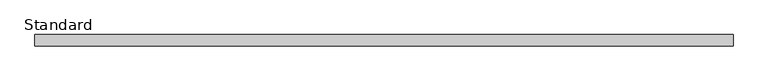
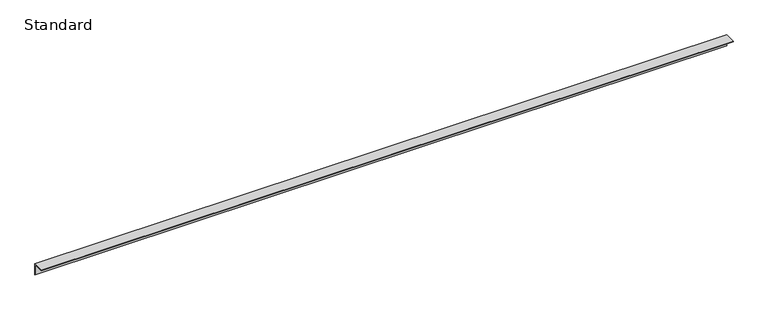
"""IFC4 building model written with IfcOpenShell, lengths in millimetres: furniture geometry, X_Vanity-Angle-Duracube-Bench Support : Standard."""

import ifcopenshell
import ifcopenshell.guid

model = None  # the IFC model being written
_history = None  # IfcOwnerHistory: only IFC2X3 demands one
_inside = {}  # id of a spatial element -> (the spatial element, [elements in it])
_under = {}  # id of a project, library or spatial element -> (it, [spatial elements below it])
_declared = {}  # id of a project -> (the project, [libraries it declares])
_typed = {}  # id of a type object -> (the type object, [elements of that type])
_made_of = {}  # id of a material, layer set ... -> (it, [elements and type objects made of it])


def new_model(schema):
    """Start an empty IFC model of exactly this schema.

    Asked for "IFC4X3", IfcOpenShell would pick the latest addendum, in which some entities
    have other attributes; the version numbers below select the first issue.
    IFC2X3 requires an IfcOwnerHistory on every rooted entity: one is made here for all.
    """
    global model, _history
    if schema == "IFC4X3":
        model = ifcopenshell.file(schema_version=(4, 3, 0, 0))
    else:
        model = ifcopenshell.file(schema=schema)
    _inside.clear()
    _under.clear()
    _declared.clear()
    _typed.clear()
    _made_of.clear()
    _history = None
    if model.schema == "IFC2X3":
        org = make("IfcOrganization", Name="unknown")
        user = make(
            "IfcPersonAndOrganization",
            ThePerson=make("IfcPerson", FamilyName="unknown"),
            TheOrganization=org,
        )
        app = make(
            "IfcApplication",
            ApplicationDeveloper=org,
            Version="unknown",
            ApplicationFullName="unknown",
            ApplicationIdentifier="unknown",
        )
        _history = make(
            "IfcOwnerHistory",
            OwningUser=user,
            OwningApplication=app,
            ChangeAction="ADDED",
            CreationDate=0,
        )
    return model


def make(cls, **values):
    """One entity of the class cls with the attributes given. An attribute that is None is left unset."""
    return model.create_entity(
        cls, **{name: value for name, value in values.items() if value is not None}
    )


def rooted(cls, **values):
    """An entity with a GlobalId (a new one), such as an element, a storey or a relation."""
    return make(cls, GlobalId=ifcopenshell.guid.new(), OwnerHistory=_history, **values)


def si_unit(unit_type, name, prefix=None):
    """IfcSIUnit, for example si_unit("LENGTHUNIT", "METRE", prefix="MILLI")."""
    return make("IfcSIUnit", UnitType=unit_type, Prefix=prefix, Name=name)


def assignment(units):
    """IfcUnitAssignment: the units of a project."""
    return None if units is None else make("IfcUnitAssignment", Units=units)


def point(xyz):
    """IfcCartesianPoint."""
    return None if xyz is None else make("IfcCartesianPoint", Coordinates=xyz)


def direction(xyz):
    """IfcDirection."""
    return None if xyz is None else make("IfcDirection", DirectionRatios=xyz)


def frame(location, z_axis=None, x_axis=None):
    """IfcAxis2Placement3D, a coordinate frame: its origin and axes. An axis left out is left unset."""
    return make(
        "IfcAxis2Placement3D",
        Location=point(location),
        Axis=direction(z_axis),
        RefDirection=direction(x_axis),
    )


def origin():
    """The frame at (0, 0, 0) with its axes left unset."""
    return frame((0.0, 0.0, 0.0))


def place(relative_to, where):
    """IfcLocalPlacement: puts the frame where relative to a parent placement (None: the world)."""
    return make(
        "IfcLocalPlacement", PlacementRelTo=relative_to, RelativePlacement=where
    )


def context(
    kind, dimensions, precision=None, world=None, true_north=None, identifier=None
):
    """IfcGeometricRepresentationContext, for example the 3D "Model" context."""
    return make(
        "IfcGeometricRepresentationContext",
        ContextIdentifier=identifier,
        ContextType=kind,
        CoordinateSpaceDimension=dimensions,
        Precision=precision,
        WorldCoordinateSystem=world,
        TrueNorth=true_north,
    )


def project(units=None, contexts=None):
    """IfcProject with its units and contexts."""
    return rooted(
        "IfcProject",
        Name="project",
        RepresentationContexts=contexts,
        UnitsInContext=assignment(units),
    )


def spatial(cls, under=None, at=None, **own):
    """A site, building, storey or space (cls), placed at a placement, below another one or the project."""
    s = rooted(cls, ObjectPlacement=at, **own)
    if under is not None:
        _under.setdefault(under.id(), (under, []))[1].append(s)
    return s


def polyline(points):
    """IfcPolyline through the points."""
    return make("IfcPolyline", Points=[point(p) for p in points])


def outline(outer, holes=None, kind="AREA"):
    """IfcArbitraryClosedProfileDef: a profile drawn as a closed curve; with holes, ...WithVoids."""
    if holes is None:
        return make("IfcArbitraryClosedProfileDef", ProfileType=kind, OuterCurve=outer)
    return make(
        "IfcArbitraryProfileDefWithVoids",
        ProfileType=kind,
        OuterCurve=outer,
        InnerCurves=holes,
    )


def extrude(swept, where, along, depth):
    """IfcExtrudedAreaSolid: the profile swept, set in the frame where, extruded along a direction by depth."""
    return make(
        "IfcExtrudedAreaSolid",
        SweptArea=swept,
        Position=where,
        ExtrudedDirection=direction(along),
        Depth=depth,
    )


def shape(context_of_items, identifier, shape_type, items):
    """IfcShapeRepresentation: the items that make up one representation, for example the "Body"."""
    return make(
        "IfcShapeRepresentation",
        ContextOfItems=context_of_items,
        RepresentationIdentifier=identifier,
        RepresentationType=shape_type,
        Items=items,
    )


def source(mapping_origin, context_of_items, identifier, shape_type, items):
    """IfcRepresentationMap: a shape defined once, which mapped items show again and again."""
    return make(
        "IfcRepresentationMap",
        MappingOrigin=mapping_origin,
        MappedRepresentation=shape(context_of_items, identifier, shape_type, items),
    )


def transform(
    local_origin,
    x_axis=None,
    y_axis=None,
    z_axis=None,
    scale=None,
    scale2=None,
    scale3=None,
    uniform=True,
):
    """IfcCartesianTransformationOperator3D, or its non-uniform kind. x_axis, y_axis, z_axis: its Axis1, 2, 3."""
    if uniform:
        return make(
            "IfcCartesianTransformationOperator3D",
            Axis1=direction(x_axis),
            Axis2=direction(y_axis),
            LocalOrigin=point(local_origin),
            Scale=scale,
            Axis3=direction(z_axis),
        )
    return make(
        "IfcCartesianTransformationOperator3DnonUniform",
        Axis1=direction(x_axis),
        Axis2=direction(y_axis),
        LocalOrigin=point(local_origin),
        Scale=scale,
        Axis3=direction(z_axis),
        Scale2=scale2,
        Scale3=scale3,
    )


def mapped(mapping_source, mapping_target):
    """IfcMappedItem: shows the shape of a source again, moved by a transform."""
    return make(
        "IfcMappedItem", MappingSource=mapping_source, MappingTarget=mapping_target
    )


def made_of(thing, what):
    """Note that an element or type object is made of a material, layer set ...; save() writes the relation."""
    if what is not None:
        _made_of.setdefault(what.id(), (what, []))[1].append(thing)
    return thing


def element(
    cls,
    number,
    at=None,
    inside=None,
    cuts=None,
    type_object=None,
    material=None,
    context=None,
    identifier="Body",
    shape_type=None,
    held_by="IfcProductDefinitionShape",
    body=None,
    shapes=None,
    **own,
):
    """One element of the class cls, such as IfcWall. Its Tag is "e" and its number.

    at: its placement. inside: the storey or other place that contains it. cuts: it is an
    opening in that element (IfcRelVoidsElement). A single representation is given by context,
    identifier, shape_type and body (its items); several are given by shapes. held_by: the class
    of the entity that holds the representations. save() writes the other relations.
    """
    e = rooted(cls, Tag="e%d" % number, ObjectPlacement=at, **own)
    if body is not None:
        shapes = [shape(context, identifier, shape_type, body)]
    if shapes is not None:
        e.Representation = make(held_by, Representations=shapes)
    if inside is not None:
        _inside.setdefault(inside.id(), (inside, []))[1].append(e)
    if cuts is not None:
        rooted(
            "IfcRelVoidsElement", RelatingBuildingElement=cuts, RelatedOpeningElement=e
        )
    if type_object is not None:
        _typed.setdefault(type_object.id(), (type_object, []))[1].append(e)
    return made_of(e, material)


def aggregate(whole, parts):
    """IfcRelAggregates: a whole, such as a stair, and the parts it consists of."""
    return rooted("IfcRelAggregates", RelatingObject=whole, RelatedObjects=parts)


def save(model, path):
    """Write the relations noted so far, then the file.

    IfcRelAggregates (storeys below a building ...), IfcRelContainedInSpatialStructure (elements
    in a storey), IfcRelDefinesByType, IfcRelAssociatesMaterial and IfcRelDeclares: one each for
    every whole, place, type object, material and project.
    """
    for whole, parts in _under.values():
        aggregate(whole, parts)
    for where, things in _inside.values():
        rooted(
            "IfcRelContainedInSpatialStructure",
            RelatedElements=things,
            RelatingStructure=where,
        )
    for kind, things in _typed.values():
        rooted("IfcRelDefinesByType", RelatedObjects=things, RelatingType=kind)
    for what, things in _made_of.values():
        rooted("IfcRelAssociatesMaterial", RelatedObjects=things, RelatingMaterial=what)
    for by, libraries in _declared.values():
        rooted("IfcRelDeclares", RelatingContext=by, RelatedDefinitions=libraries)
    model.write(path)


def standard_7ffdd999(model_context):
    return source(origin(), model_context, "Body", "SweptSolid", [
        extrude(outline(polyline([(0.0, 0.0), (-2.0, 0.0), (-2.0, 38.0), (-40.0, 38.0), (-40.0, 40.0), (0.0, 40.0), (0.0, 0.0)])), frame((-1198.7996736, 0.0, 0.0), z_axis=(1.0, 0.0, 0.0), x_axis=(0.0, 1.0, 0.0)), (0.0, 0.0, 1.0), 2487.0),
    ])


if __name__ == "__main__":
    model = new_model("IFC4")
    model_context = context("Model", 3, world=origin())
    ifc_project = project(units=[si_unit("LENGTHUNIT", "METRE", prefix="MILLI")], contexts=[model_context])
    site = spatial("IfcSite", under=ifc_project)
    building = spatial("IfcBuilding", under=site)
    placement = place(None, origin())
    standard_shape = standard_7ffdd999(model_context)
    element("IfcFurniture", 1, ObjectType="X_Vanity-Angle-Duracube-Bench Support : Standard", at=placement, inside=building, context=model_context, shape_type="MappedRepresentation", body=[
        mapped(standard_shape, transform((0.0, 0.0, 0.0), x_axis=(1.0, 0.0, 0.0), y_axis=(0.0, 1.0, 0.0), z_axis=(0.0, 0.0, 1.0))),
    ])
    save(model, "model.ifc")
